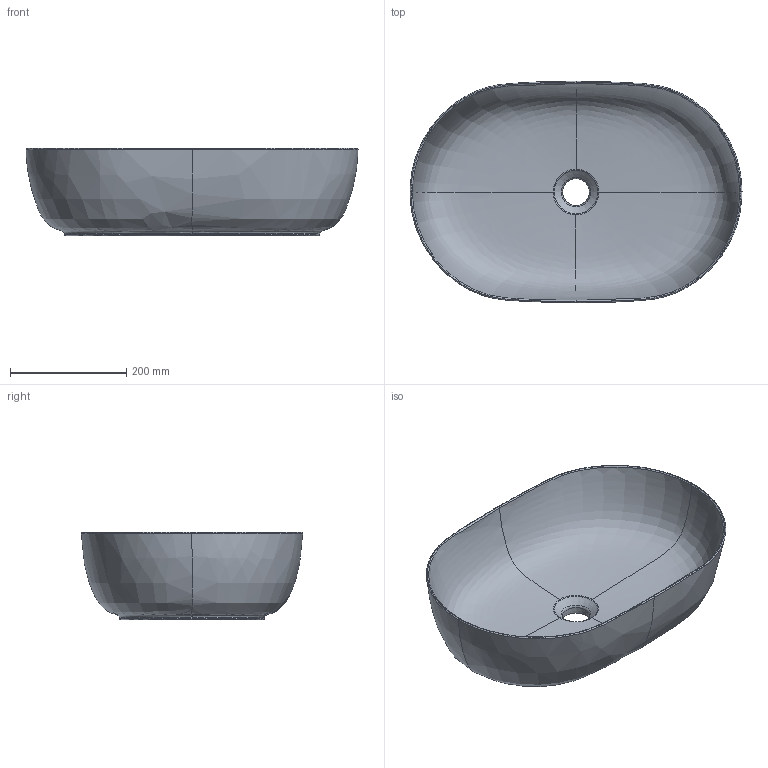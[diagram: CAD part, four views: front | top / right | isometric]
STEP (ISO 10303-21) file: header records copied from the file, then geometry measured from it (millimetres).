
FILE_DESCRIPTION(/* description */ (''),/* implementation_level */ '2;1');
FILE_NAME(/* name */ 'LAVABO_HAPPY_HOUR_12-00_PROTAP_01_20210517.stp',/* time_stamp */ '2021-05-17T11:47:00+02:00',/* author */ (''),/* organization */ (''),/* preprocessor_version */ 'ST-DEVELOPER v16.7',/* originating_system */ 'SIEMENS PLM Software NX 12.0',/* authorisation */ '');
FILE_SCHEMA (('AUTOMOTIVE_DESIGN { 1 0 10303 214 3 1 1 1 }'));
Length unit declared in the file: millimetre
Products named in the file (1): Cava20841A6A3maa
Bounding box: 570.03 x 380.03 x 150 mm (x, y, z)
Volume: 4994900.9 mm3; surface area: 652762.2 mm2
Topology: 1 solids, 1 shells, 146 faces, 356 edges, 220 vertices
Faces by surface type: bspline 131, torus 6, cone 5, plane 4
Entity records: 24293 total; most frequent: CARTESIAN_POINT 21925, ORIENTED_EDGE 676, EDGE_CURVE 338, B_SPLINE_CURVE_WITH_KNOTS 282, VERTEX_POINT 213, EDGE_LOOP 167, ADVANCED_FACE 146, DIRECTION 144
